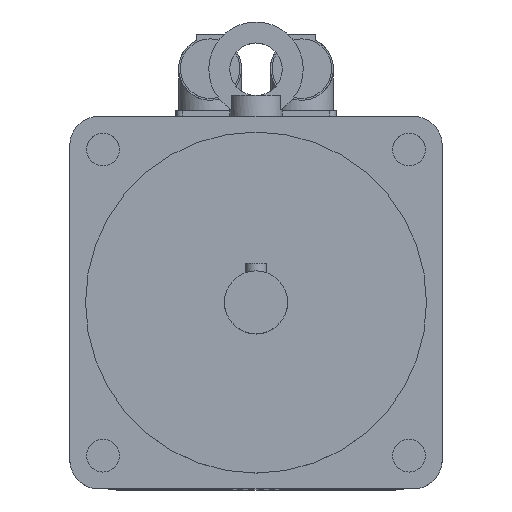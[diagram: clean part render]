
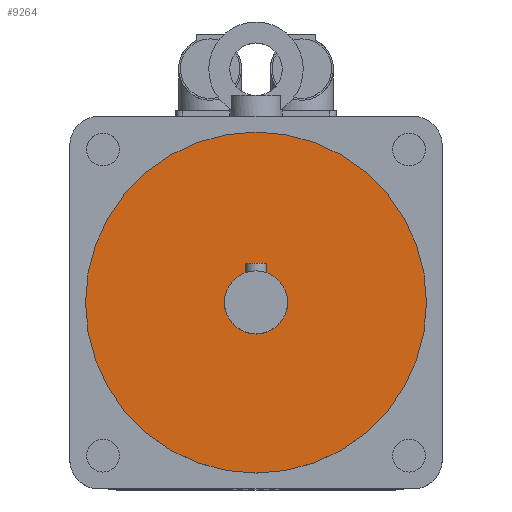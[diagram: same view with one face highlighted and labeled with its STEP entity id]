
A CAD part, top view. The second image highlights one B-rep face of the part: STEP entity #9264.
In plain terms, the highlighted planar face has unit normal (0, 0, 1).
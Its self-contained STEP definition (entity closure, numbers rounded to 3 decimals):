
#107=FACE_BOUND('',#909,.T.);
#283=FACE_OUTER_BOUND('',#908,.T.);
#908=EDGE_LOOP('',(#6623));
#909=EDGE_LOOP('',(#6624));
#1470=CIRCLE('',#9861,12.);
#1471=CIRCLE('',#9863,65.);
#4215=VERTEX_POINT('',#14403);
#4216=VERTEX_POINT('',#14406);
#5156=EDGE_CURVE('',#4215,#4215,#1470,.T.);
#5157=EDGE_CURVE('',#4216,#4216,#1471,.T.);
#6623=ORIENTED_EDGE('',*,*,#5157,.F.);
#6624=ORIENTED_EDGE('',*,*,#5156,.T.);
#8816=PLANE('',#9862);
#9264=ADVANCED_FACE('',(#283,#107),#8816,.T.);
#9861=AXIS2_PLACEMENT_3D('',#14404,#11242,#11243);
#9862=AXIS2_PLACEMENT_3D('',#14405,#11244,#11245);
#9863=AXIS2_PLACEMENT_3D('',#14407,#11246,#11247);
#11242=DIRECTION('center_axis',(0.,0.,-1.));
#11243=DIRECTION('ref_axis',(1.,0.,0.));
#11244=DIRECTION('center_axis',(0.,0.,1.));
#11245=DIRECTION('ref_axis',(1.,0.,0.));
#11246=DIRECTION('center_axis',(0.,0.,-1.));
#11247=DIRECTION('ref_axis',(1.,0.,0.));
#14403=CARTESIAN_POINT('',(0.,12.,217.));
#14404=CARTESIAN_POINT('Origin',(0.,0.,217.));
#14405=CARTESIAN_POINT('Origin',(0.,65.,217.));
#14406=CARTESIAN_POINT('',(0.,65.,217.));
#14407=CARTESIAN_POINT('Origin',(0.,0.,217.));
